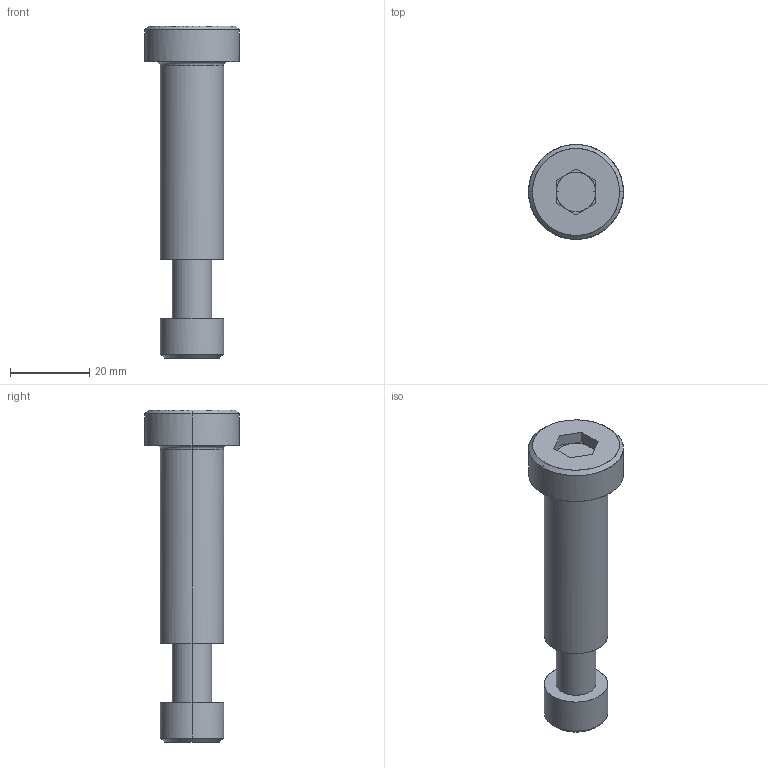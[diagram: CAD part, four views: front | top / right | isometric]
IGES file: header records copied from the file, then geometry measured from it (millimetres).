
Global section: file name: E:\UnigraphicsGraphicData\MISUMI_PRESS-PARTS\IGES\3d_sbtk16-50-30_05165_r00.igs; native system: NX V5.0; preprocessor: UGS NX IGES V5.0; author: MISUMI; date: 20110105.162502; units: millimetre
Bounding box: 24 x 24 x 84 mm (x, y, z)
Surface area: 6995.6 mm2 (no closed solid volume)
Topology: 0 solids, 0 shells, 46 faces, 264 edges, 260 vertices
Faces by surface type: bspline 46
